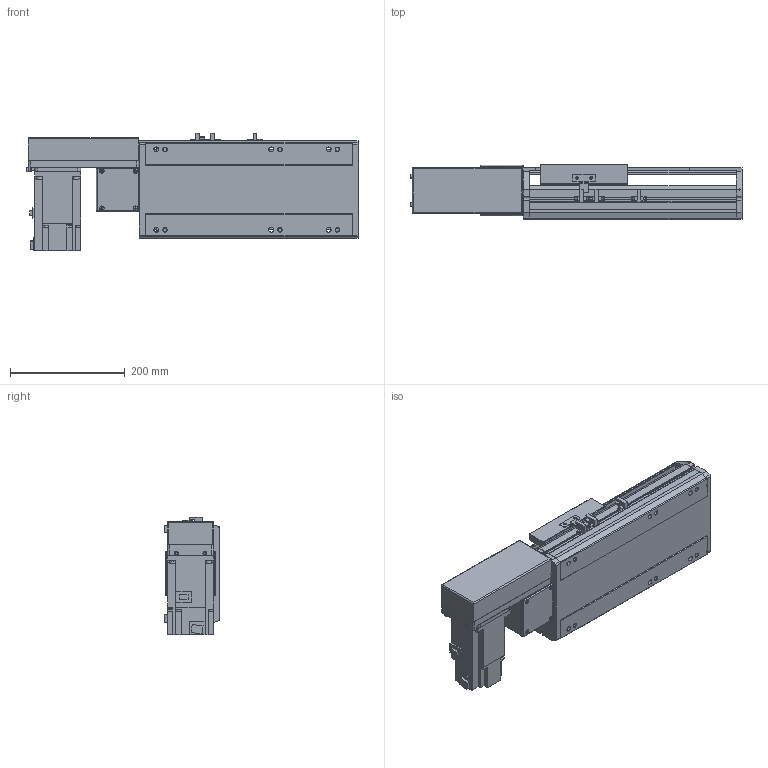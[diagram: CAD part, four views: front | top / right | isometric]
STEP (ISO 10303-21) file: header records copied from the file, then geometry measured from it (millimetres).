
FILE_DESCRIPTION( ( 'STEP AP214' ), '1' );
FILE_NAME( 'x:/temp/worker_4/temp/exporttempdir_2248_250_XNYBG/format_0/PBS170-P40-S100-R-T75-C1-N(0).stp', '2022-06-07T07:28:44', ( 'License CC BY-ND 4.0' ), ( 'CADENAS' ), ' ', 'PARTsolutions', ' ' );
FILE_SCHEMA( ( 'AUTOMOTIVE_DESIGN { 1 0 10303 214 1 1 1 1 }' ) );
Length unit declared in the file: millimetre
Products named in the file (7): PBS170-P40-S100-R-T75-C1-N(0); _PBS170-S100()_body; _PBS170T-R_motors; _T75-p1; _PBS170_sliser; _PBS170_plant; _PBS170_sensor
Assembly tree (8 placements, depth 2):
  PBS170-P40-S100-R-T75-C1-N(0)
    _PBS170-S100()_body
    _PBS170T-R_motors
    _T75-p1
    _PBS170_sliser
    _PBS170_plant
    _PBS170_sensor  x3
Bounding box: 578 x 97 x 205.3 mm (x, y, z)
Volume: 4576573.9 mm3; surface area: 666894.8 mm2
Topology: 8 solids, 8 shells, 1002 faces, 2675 edges, 1744 vertices
Faces by surface type: plane 657, cylinder 299, cone 36, sphere 8, torus 2
Full cylindrical faces by diameter (mm): 3.242 x4, 4 x2, 4.4 x4, 4.5 x6, 4.917 x4, 6 x9, 6.647 x14, 7 x2, 7.5 x4, 8 x8, 8.5 x6, 10 x4, 10.5 x6, 11 x2, 30 x2, 40 x1, 70 x1
Entity records: 36530 total; most frequent: CARTESIAN_POINT 5381, DIRECTION 4950, ORIENTED_EDGE 4728, EDGE_CURVE 2364, AXIS2_PLACEMENT_3D 1687, VERTEX_POINT 1610, LINE 1576, VECTOR 1576
